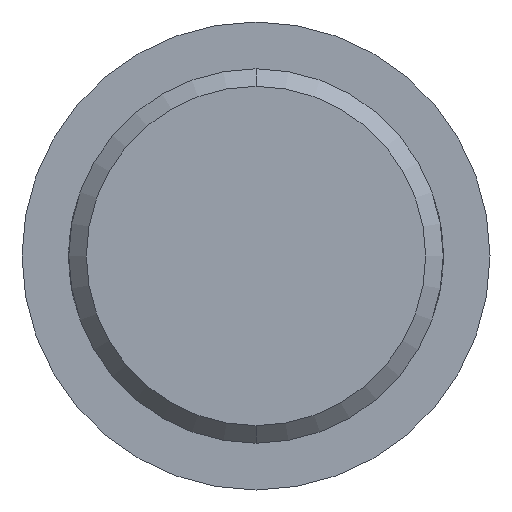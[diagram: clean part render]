
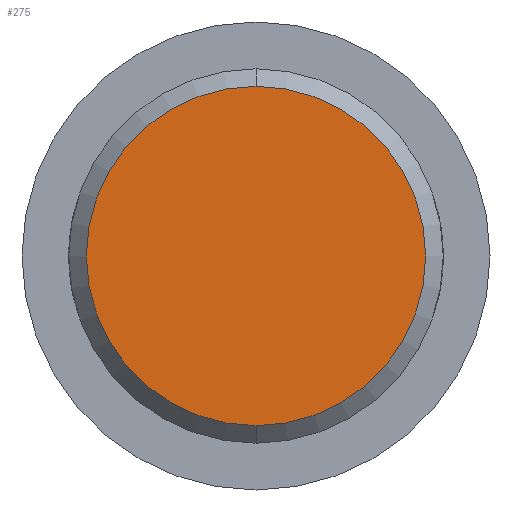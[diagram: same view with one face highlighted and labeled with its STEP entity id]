
A CAD part, front view. The second image highlights one B-rep face of the part: STEP entity #275.
In plain terms, the highlighted planar face has unit normal (0, -1, 0).
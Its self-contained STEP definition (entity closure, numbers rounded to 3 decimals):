
#17 = DIRECTION ( 'NONE',  ( 0., 0., -1. ) ) ;
#54 = DIRECTION ( 'NONE',  ( 0., -1., 0. ) ) ;
#61 = CIRCLE ( 'NONE', #104, 7.25 ) ;
#69 = CARTESIAN_POINT ( 'NONE',  ( 0., -45., 0. ) ) ;
#90 = DIRECTION ( 'NONE',  ( 0., -1., 0. ) ) ;
#94 = AXIS2_PLACEMENT_3D ( 'NONE', #69, #231, #344 ) ;
#104 = AXIS2_PLACEMENT_3D ( 'NONE', #175, #90, #251 ) ;
#130 = FACE_OUTER_BOUND ( 'NONE', #135, .T. ) ;
#135 = EDGE_LOOP ( 'NONE', ( #330, #150 ) ) ;
#140 = CARTESIAN_POINT ( 'NONE',  ( 0., -45., 7.25 ) ) ;
#150 = ORIENTED_EDGE ( 'NONE', *, *, #217, .T. ) ;
#175 = CARTESIAN_POINT ( 'NONE',  ( 0., -45., 0. ) ) ;
#206 = VERTEX_POINT ( 'NONE', #246 ) ;
#217 = EDGE_CURVE ( 'NONE', #206, #314, #61, .T. ) ;
#231 = DIRECTION ( 'NONE',  ( 0., -1., 0. ) ) ;
#246 = CARTESIAN_POINT ( 'NONE',  ( 0., -45., -7.25 ) ) ;
#251 = DIRECTION ( 'NONE',  ( 0., 0., -1. ) ) ;
#272 = PLANE ( 'NONE',  #94 ) ;
#275 = ADVANCED_FACE ( 'NONE', ( #130 ), #272, .T. ) ;
#314 = VERTEX_POINT ( 'NONE', #140 ) ;
#330 = ORIENTED_EDGE ( 'NONE', *, *, #371, .T. ) ;
#344 = DIRECTION ( 'NONE',  ( 0., 0., -1. ) ) ;
#348 = CARTESIAN_POINT ( 'NONE',  ( 0., -45., 0. ) ) ;
#359 = CIRCLE ( 'NONE', #409, 7.25 ) ;
#371 = EDGE_CURVE ( 'NONE', #314, #206, #359, .T. ) ;
#409 = AXIS2_PLACEMENT_3D ( 'NONE', #348, #54, #17 ) ;
